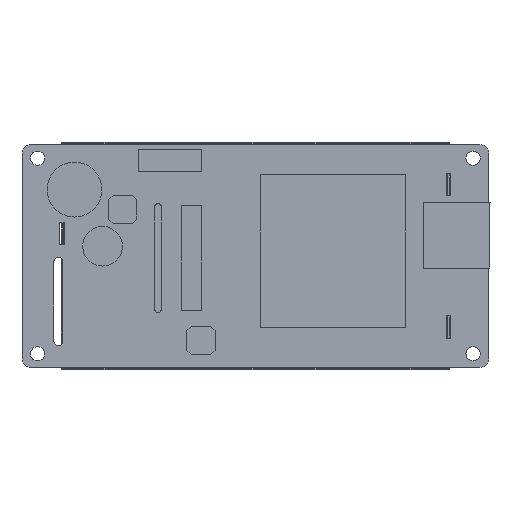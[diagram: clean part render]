
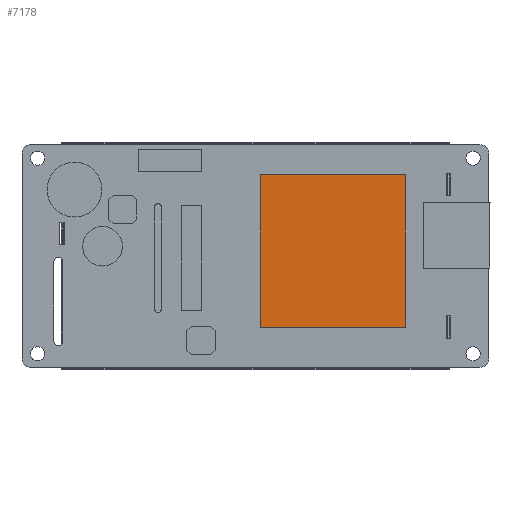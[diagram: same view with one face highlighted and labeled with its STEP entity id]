
A CAD part, top view. The second image highlights one B-rep face of the part: STEP entity #7178.
In plain terms, the highlighted planar face has unit normal (0, 0, 1).
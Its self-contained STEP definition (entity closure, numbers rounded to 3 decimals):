
#256 = DIRECTION ( 'NONE',  ( 0., 0., 1. ) ) ;
#359 = VECTOR ( 'NONE', #4708, 1000. ) ;
#790 = FACE_OUTER_BOUND ( 'NONE', #7813, .T. ) ;
#795 = CARTESIAN_POINT ( 'NONE',  ( -1.868, 18.293, 10.5 ) ) ;
#1121 = VERTEX_POINT ( 'NONE', #2733 ) ;
#1230 = VERTEX_POINT ( 'NONE', #5132 ) ;
#1638 = ORIENTED_EDGE ( 'NONE', *, *, #3067, .F. ) ;
#2450 = VECTOR ( 'NONE', #6626, 1000. ) ;
#2602 = LINE ( 'NONE', #6029, #2450 ) ;
#2640 = CARTESIAN_POINT ( 'NONE',  ( 30.898, 18.293, 10.5 ) ) ;
#2719 = EDGE_CURVE ( 'NONE', #6934, #7056, #5666, .T. ) ;
#2733 = CARTESIAN_POINT ( 'NONE',  ( -1.868, -16.124, 10.5 ) ) ;
#2829 = CARTESIAN_POINT ( 'NONE',  ( -1.868, 18.293, 10.5 ) ) ;
#2916 = EDGE_CURVE ( 'NONE', #7056, #1230, #2602, .T. ) ;
#2952 = VECTOR ( 'NONE', #3516, 1000. ) ;
#3061 = LINE ( 'NONE', #2829, #2952 ) ;
#3067 = EDGE_CURVE ( 'NONE', #1121, #6934, #3061, .T. ) ;
#3140 = AXIS2_PLACEMENT_3D ( 'NONE', #4162, #256, #4712 ) ;
#3333 = DIRECTION ( 'NONE',  ( 1., 0., 0. ) ) ;
#3516 = DIRECTION ( 'NONE',  ( 0., 1., 0. ) ) ;
#3521 = PLANE ( 'NONE',  #3140 ) ;
#3610 = ORIENTED_EDGE ( 'NONE', *, *, #2719, .F. ) ;
#3662 = EDGE_CURVE ( 'NONE', #1230, #1121, #5377, .T. ) ;
#4159 = CARTESIAN_POINT ( 'NONE',  ( -1.868, -16.124, 10.5 ) ) ;
#4162 = CARTESIAN_POINT ( 'NONE',  ( -53.45, -25.08, 10.5 ) ) ;
#4708 = DIRECTION ( 'NONE',  ( -1., 0., 0. ) ) ;
#4712 = DIRECTION ( 'NONE',  ( 1., 0., 0. ) ) ;
#5132 = CARTESIAN_POINT ( 'NONE',  ( 30.898, -16.124, 10.5 ) ) ;
#5377 = LINE ( 'NONE', #4159, #359 ) ;
#5588 = VECTOR ( 'NONE', #3333, 1000. ) ;
#5666 = LINE ( 'NONE', #2640, #5588 ) ;
#6029 = CARTESIAN_POINT ( 'NONE',  ( 30.898, -16.124, 10.5 ) ) ;
#6479 = CARTESIAN_POINT ( 'NONE',  ( 30.898, 18.293, 10.5 ) ) ;
#6626 = DIRECTION ( 'NONE',  ( 0., -1., 0. ) ) ;
#6934 = VERTEX_POINT ( 'NONE', #795 ) ;
#7056 = VERTEX_POINT ( 'NONE', #6479 ) ;
#7124 = ORIENTED_EDGE ( 'NONE', *, *, #3662, .F. ) ;
#7178 = ADVANCED_FACE ( 'NONE', ( #790 ), #3521, .T. ) ;
#7810 = ORIENTED_EDGE ( 'NONE', *, *, #2916, .F. ) ;
#7813 = EDGE_LOOP ( 'NONE', ( #3610, #1638, #7124, #7810 ) ) ;
